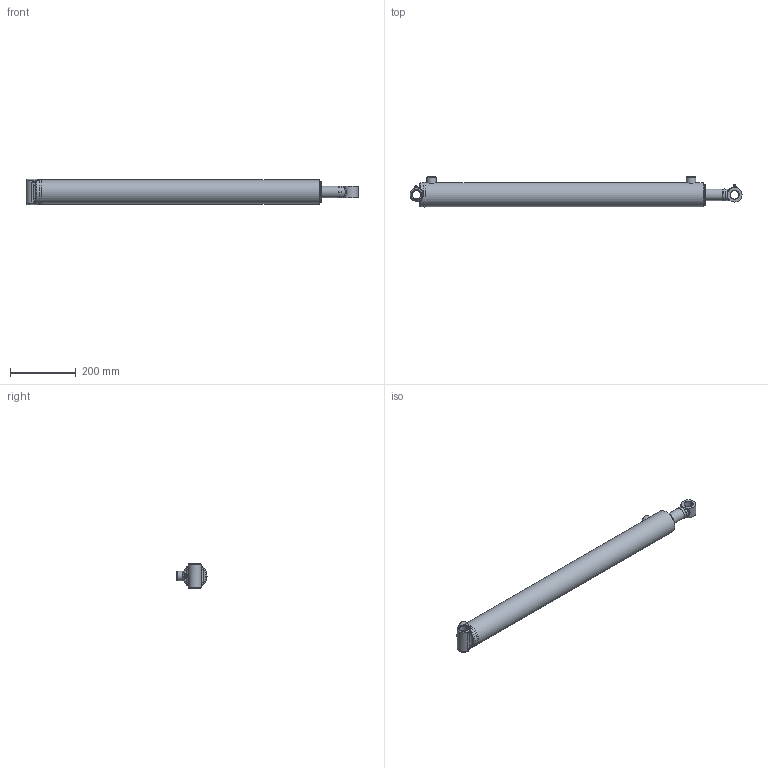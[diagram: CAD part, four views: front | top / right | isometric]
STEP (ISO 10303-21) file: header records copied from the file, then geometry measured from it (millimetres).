
FILE_DESCRIPTION(/* description */ ('Ø2.50 X 30.00 DA'),/* implementation_level */ '2;1');
FILE_NAME(/* name */ 'T:\Aces\Jobs\3c58b43a7473413895a9a3504dbf2d28\result.stp',/* time_stamp */ '2022-10-06T15:00:13+00:00',/* author */ (''),/* organization */ ('PRINCE MANUFACTURING'),/* preprocessor_version */ 'ST-DEVELOPER v18.1',/* originating_system */ 'Autodesk Inventor 2022',/* authorisation */ '');
FILE_SCHEMA (('AUTOMOTIVE_DESIGN { 1 0 10303 214 3 1 1 }'));
Length unit declared in the file: inch
Products named in the file (21): PC2530013A00-380XYXA; 0613-XYSF000-33237; 0513-T-33237; 161300230; 200015602; 06Weld1_C360; 0713-P-075; 220000208; 0813-G-138; 230025103; 230025003; 240000018; 240061330; 240000330; 0207A-FAW0-36250XA; 0107A-FAW0-36250; 210400812; 02Weld_C360; 240037106; 250014137; 270010020
Assembly tree (22 placements, depth 3):
  PC2530013A00-380XYXA
    0613-XYSF000-33237
      0513-T-33237
      161300230
      200015602  x2
      06Weld1_C360
    0713-P-075
    220000208
    0813-G-138
    230025103
    230025003
    240000018
    240061330
    240000330
    0207A-FAW0-36250XA
      0107A-FAW0-36250
      210400812
      02Weld_C360
    240037106
    250014137
    270010020  x2
Bounding box: 1006.91 x 91.34 x 76.2 mm (x, y, z)
Volume: 2030253.8 mm3; surface area: 581736 mm2
Topology: 25 solids, 25 shells, 554 faces, 1338 edges, 857 vertices
Faces by surface type: bspline 155, plane 140, torus 86, cone 86, cylinder 83, sphere 4
Full cylindrical faces by diameter (mm): 2.143 x4, 3.175 x1, 5.359 x2, 6.35 x2, 9.525 x2, 12.649 x1, 12.7 x1, 12.725 x1, 17.323 x3, 18.999 x1, 19.126 x1, 21.615 x1, 25.781 x2, 28.575 x2, 34.925 x1, 35.001 x2, 35.56 x2, 36.957 x1, 40.64 x1, 41.3 x1, 44.45 x1, 46.101 x2, 47.625 x2, 50.8 x2, 54.077 x2, 54.813 x2, 59.931 x2, 60.071 x1, 60.096 x4, 62.886 x2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
Entity records: 32488 total; most frequent: CARTESIAN_POINT 20016, ORIENTED_EDGE 2458, DIRECTION 2131, EDGE_CURVE 1229, AXIS2_PLACEMENT_3D 894, VERTEX_POINT 796, EDGE_LOOP 589, FACE_OUTER_BOUND 510
